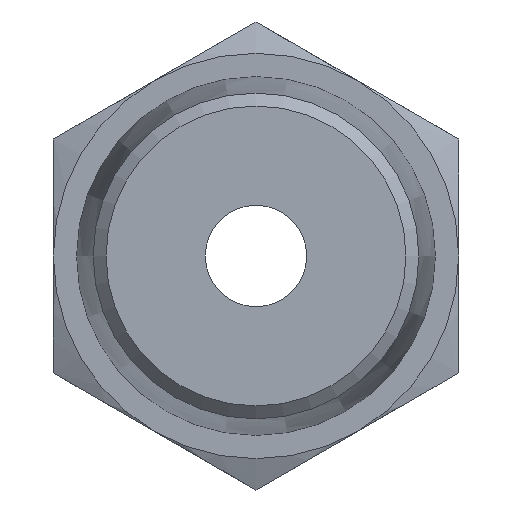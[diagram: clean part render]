
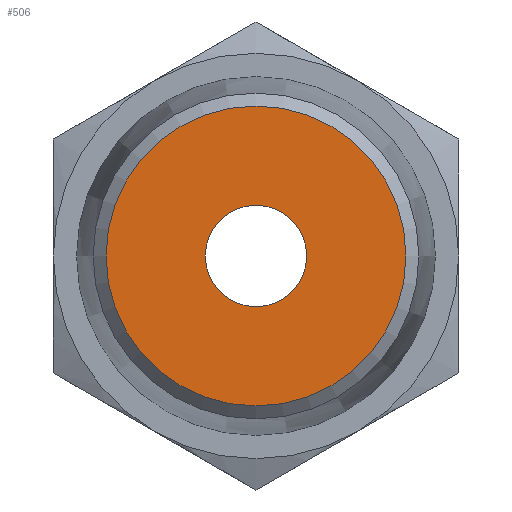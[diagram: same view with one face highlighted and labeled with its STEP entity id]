
A CAD part, front view. The second image highlights one B-rep face of the part: STEP entity #506.
In plain terms, the highlighted planar face has unit normal (0, -1, 0).
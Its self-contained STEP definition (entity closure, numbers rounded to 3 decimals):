
#57=FACE_BOUND('',#124,.T.);
#65=PLANE('',#579);
#84=FACE_OUTER_BOUND('',#123,.T.);
#123=EDGE_LOOP('',(#371));
#124=EDGE_LOOP('',(#372));
#191=CIRCLE('',#560,1.25);
#203=CIRCLE('',#578,3.7);
#225=VERTEX_POINT('',#792);
#236=VERTEX_POINT('',#824);
#270=EDGE_CURVE('',#225,#225,#191,.T.);
#286=EDGE_CURVE('',#236,#236,#203,.T.);
#371=ORIENTED_EDGE('',*,*,#286,.F.);
#372=ORIENTED_EDGE('',*,*,#270,.T.);
#506=ADVANCED_FACE('',(#84,#57),#65,.T.);
#560=AXIS2_PLACEMENT_3D('',#793,#634,#635);
#578=AXIS2_PLACEMENT_3D('',#826,#674,#675);
#579=AXIS2_PLACEMENT_3D('',#827,#676,#677);
#634=DIRECTION('center_axis',(0.,1.,0.));
#635=DIRECTION('ref_axis',(1.,0.,0.));
#674=DIRECTION('center_axis',(0.,1.,0.));
#675=DIRECTION('ref_axis',(-1.,0.,0.));
#676=DIRECTION('center_axis',(0.,-1.,0.));
#677=DIRECTION('ref_axis',(0.,0.,-1.));
#792=CARTESIAN_POINT('',(-1.25,-7.3,0.));
#793=CARTESIAN_POINT('Origin',(0.,-7.3,0.));
#824=CARTESIAN_POINT('',(3.7,-7.3,0.));
#826=CARTESIAN_POINT('Origin',(0.,-7.3,0.));
#827=CARTESIAN_POINT('Origin',(4.,-7.3,0.));
